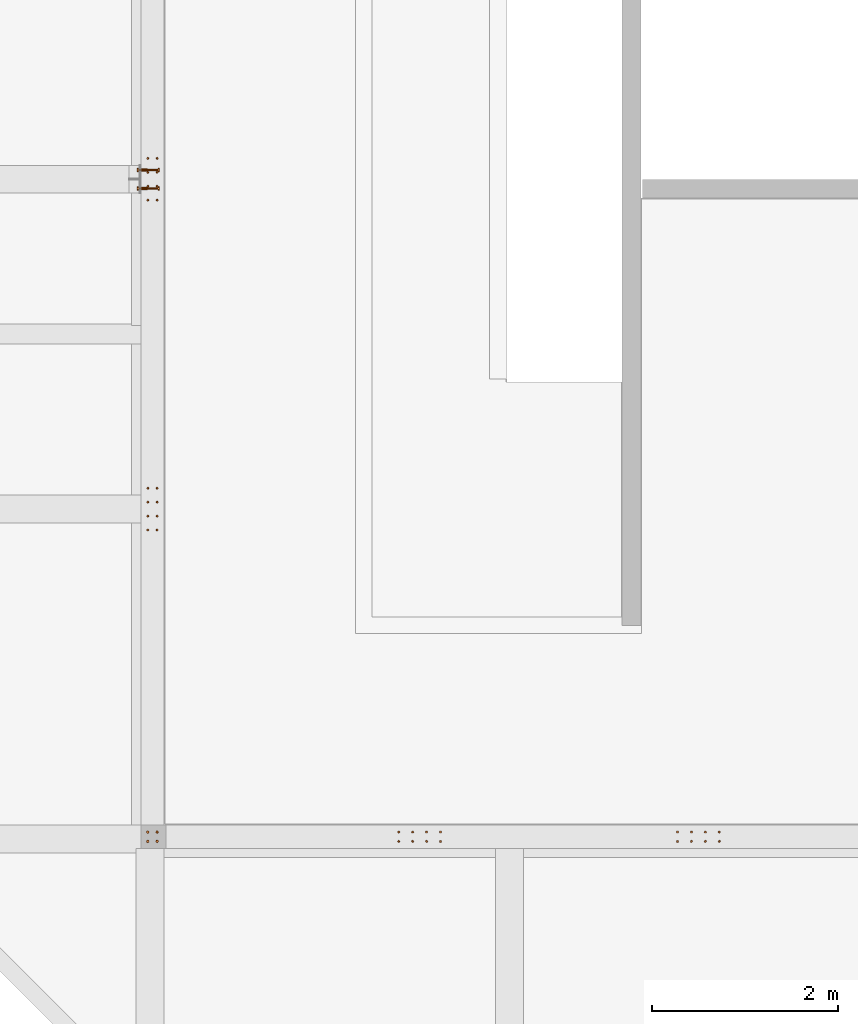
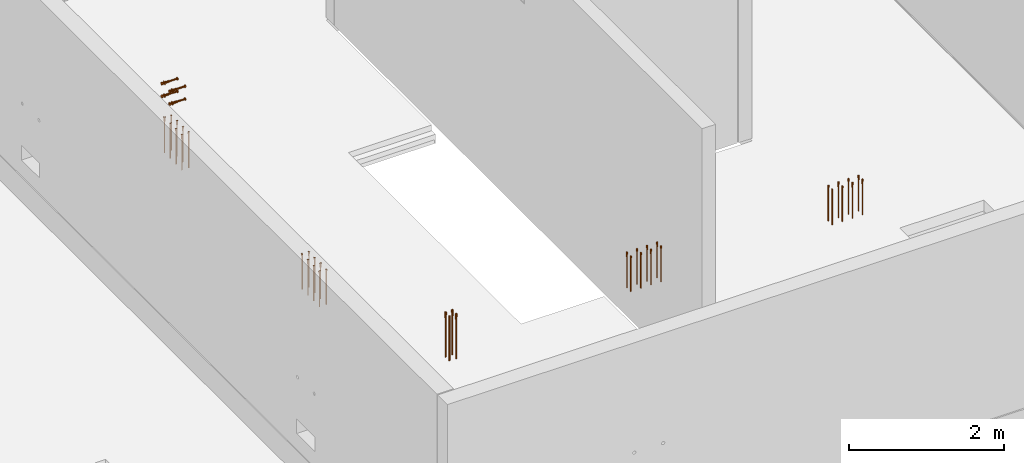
# One storey, part 13 of 16: 40 proxies.
"""IFC2X3 building model written with IfcOpenShell, lengths in millimetres."""

from ifc_helpers import new_model, entity, si_unit, converted_unit, derived_unit, direction, frame, frame_2d, origin, place, context, subcontext, project, spatial, polyline, circle, outline, extrude, faceted_brep, source, transform, mapped, material, type_object, type_shapes, element, save


model = new_model("IFC2X3")

# Units and contexts
model_context = context("Model", 3, precision=0.01, world=origin(), true_north=direction((6.12303176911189e-17, 1.0)))
body_context = subcontext(model_context, "Body", "Model", "MODEL_VIEW")
ifc_project = project(units=[si_unit("LENGTHUNIT", "METRE", prefix="MILLI"), si_unit("AREAUNIT", "SQUARE_METRE"), si_unit("VOLUMEUNIT", "CUBIC_METRE"), converted_unit("PLANEANGLEUNIT", "DEGREE", entity("IfcRatioMeasure", 0.0174532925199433), si_unit("PLANEANGLEUNIT", "RADIAN"), dimensions=[0, 0, 0, 0, 0, 0, 0]), si_unit("MASSUNIT", "GRAM", prefix="KILO"), derived_unit("MASSDENSITYUNIT", [(si_unit("MASSUNIT", "GRAM", prefix="KILO"), 1), (si_unit("LENGTHUNIT", "METRE"), -3)]), si_unit("TIMEUNIT", "SECOND"), si_unit("FREQUENCYUNIT", "HERTZ"), si_unit("THERMODYNAMICTEMPERATUREUNIT", "DEGREE_CELSIUS"), derived_unit("THERMALTRANSMITTANCEUNIT", [(si_unit("MASSUNIT", "GRAM", prefix="KILO"), 1), (si_unit("THERMODYNAMICTEMPERATUREUNIT", "KELVIN"), -1), (si_unit("TIMEUNIT", "SECOND"), -3)]), derived_unit("VOLUMETRICFLOWRATEUNIT", [(si_unit("LENGTHUNIT", "METRE"), 3), (si_unit("TIMEUNIT", "SECOND"), -1)]), si_unit("ELECTRICCURRENTUNIT", "AMPERE"), si_unit("ELECTRICVOLTAGEUNIT", "VOLT"), si_unit("POWERUNIT", "WATT"), si_unit("FORCEUNIT", "NEWTON", prefix="KILO"), si_unit("ILLUMINANCEUNIT", "LUX"), si_unit("LUMINOUSFLUXUNIT", "LUMEN"), si_unit("LUMINOUSINTENSITYUNIT", "CANDELA"), derived_unit("USERDEFINED", [(si_unit("MASSUNIT", "GRAM", prefix="KILO"), -1), (si_unit("LENGTHUNIT", "METRE"), -2), (si_unit("TIMEUNIT", "SECOND"), 3), (si_unit("LUMINOUSFLUXUNIT", "LUMEN"), 1)]), derived_unit("LINEARVELOCITYUNIT", [(si_unit("LENGTHUNIT", "METRE"), 1), (si_unit("TIMEUNIT", "SECOND"), -1)]), si_unit("PRESSUREUNIT", "PASCAL"), derived_unit("USERDEFINED", [(si_unit("LENGTHUNIT", "METRE"), -2), (si_unit("MASSUNIT", "GRAM", prefix="KILO"), 1), (si_unit("TIMEUNIT", "SECOND"), -2)])], contexts=[model_context])

# Site, building, storey
site_placement = place(None, origin())
site = spatial("IfcSite", under=ifc_project, at=site_placement, Name="Default", CompositionType="ELEMENT")
building_placement = place(site_placement, origin())
building = spatial("IfcBuilding", under=site, at=building_placement, Name="niet gebruiken", CompositionType="ELEMENT")
storey_placement = place(building_placement, frame((0.0, 0.0, 183150.0)))
storey = spatial("IfcBuildingStorey", under=building, at=storey_placement, Name="58 achtenvijftigste verdieping", CompositionType="ELEMENT", Elevation=183150.0)

# Proxies
building_element_proxy_type_1 = type_object("IfcBuildingElementProxyType", Name="Ø16/M20x560", PredefinedType="NOTDEFINED")
shared_shape_1 = source(origin(), body_context, "Body", "SolidModel", [
    extrude(circle(Radius=8.0, at=frame_2d((4.22994972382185e-15, -1.29243565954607e-14), x_axis=(1.0, 0.0))), frame((34.9769027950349, 0.0, -560.0)), (0.0, 0.0, 1.0), 489.0),
    extrude(circle(Radius=8.0, at=frame_2d((4.22994972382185e-15, -1.29243565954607e-14), x_axis=(1.0, 0.0))), frame((34.9769027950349, 0.0, -560.0)), (0.0, 0.0, 1.0), 489.0),
    faceted_brep([(30.380708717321, 11.0961940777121, 0.0), (32.6788057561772, 12.0480970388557, 0.0), (34.9769027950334, 13.0, 0.0), (34.9769027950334, 13.0, -33.0), (32.6788057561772, 12.0480970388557, -33.0), (30.380708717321, 11.0961940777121, -33.0), (28.0826116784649, 10.1442911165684, -33.0), (25.7845146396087, 9.1923881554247, -33.0), (25.7845146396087, 9.1923881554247, 0.0), (28.0826116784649, 10.1442911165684, 0.0), (47.0249998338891, 2.29809703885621, 0.0), (47.9769027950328, 0.0, 0.0), (47.9769027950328, 0.0, -33.0), (47.1698993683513, 1.94827861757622, -33.0), (46.0730968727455, 4.59619407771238, -33.0), (45.1211939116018, 6.89429111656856, -33.0), (44.1692909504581, 9.19238815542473, -33.0), (44.1692909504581, 9.19238815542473, 0.0), (45.1211939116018, 6.89429111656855, 0.0), (46.0730968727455, 4.59619407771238, 0.0), (23.5909096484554, 3.89655723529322, -33.0), (21.976902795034, 0.0, -33.0), (21.976902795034, 0.0, 0.0), (22.9288057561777, 2.29809703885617, 0.0), (23.8807087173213, 4.59619407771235, 0.0), (24.832611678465, 6.89429111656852, 0.0), (24.6877121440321, 6.54447269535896, -33.0), (39.5730968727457, 11.0961940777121, 0.0), (41.8711939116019, 10.1442911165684, 0.0), (41.8711939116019, 10.1442911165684, -33.0), (39.5730968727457, 11.0961940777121, -33.0), (37.2749998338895, 12.0480970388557, -33.0), (37.2749998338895, 12.0480970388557, 0.0), (46.3628959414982, -3.89655723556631, 0.0), (45.2660934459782, -6.54447269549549, 0.0), (44.1692909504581, -9.19238815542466, 0.0), (44.1692909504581, -9.19238815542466, -33.0), (45.1211939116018, -6.89429111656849, -33.0), (46.0730968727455, -4.59619407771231, -33.0), (47.0249998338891, -2.29809703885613, -33.0), (30.3807087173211, -11.0961940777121, 0.0), (28.0826116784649, -10.1442911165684, 0.0), (25.7845146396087, -9.19238815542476, 0.0), (25.7845146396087, -9.19238815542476, -33.0), (28.0826116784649, -10.1442911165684, -33.0), (30.3807087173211, -11.0961940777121, -33.0), (32.6788057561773, -12.0480970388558, -33.0), (34.9769027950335, -13.0, -33.0), (34.9769027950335, -13.0, 0.0), (32.6788057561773, -12.0480970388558, 0.0), (37.2749998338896, -12.0480970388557, -33.0), (39.5730968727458, -11.096194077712, -33.0), (41.871193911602, -10.1442911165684, -33.0), (41.871193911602, -10.1442911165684, 0.0), (39.5730968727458, -11.096194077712, 0.0), (37.2749998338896, -12.0480970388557, 0.0), (24.832611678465, -6.89429111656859, 0.0), (23.8807087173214, -4.59619407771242, 0.0), (22.9288057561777, -2.29809703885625, 0.0), (22.7839062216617, -1.94827861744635, -33.0), (23.8807087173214, -4.59619407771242, -33.0), (24.832611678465, -6.89429111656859, -33.0), (24.476902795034, 0.0, -38.0), (29.7269027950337, 9.09326673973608, -38.0), (40.2269027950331, 9.0932667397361, -38.0), (45.4769027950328, 0.0, -38.0), (40.2269027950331, -9.09326673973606, -38.0), (29.7269027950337, -9.09326673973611, -38.0), (29.7269027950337, 9.09326673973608, -71.0), (24.476902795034, 0.0, -71.0), (40.2269027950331, 9.0932667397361, -71.0), (45.4769027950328, 0.0, -71.0), (40.2269027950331, -9.09326673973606, -71.0), (29.7269027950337, -9.09326673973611, -71.0), (34.9769027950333, 0.0, -71.0), (34.9769027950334, 0.0, -33.0), (45.4769027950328, 0.0, -33.0), (40.2269027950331, 9.0932667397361, -33.0), (29.7269027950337, 9.09326673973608, -33.0), (24.476902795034, 0.0, -33.0), (40.2269027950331, -9.09326673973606, -33.0), (29.7269027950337, -9.09326673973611, -33.0), (29.7269027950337, 9.09326673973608, 0.0), (24.476902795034, 0.0, 0.0), (40.2269027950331, 9.0932667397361, 0.0), (45.4769027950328, 0.0, 0.0), (40.2269027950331, -9.09326673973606, 0.0), (29.7269027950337, -9.09326673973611, 0.0)], [[[0, 1, 2, 3, 4, 5, 6, 7, 8, 9]], [[10, 11, 12, 13, 14, 15, 16, 17, 18, 19]], [[20, 21, 22, 23, 24, 25, 8, 7, 26]], [[27, 28, 17, 16, 29, 30, 31, 3, 2, 32]], [[33, 34, 35, 36, 37, 38, 39, 12, 11]], [[40, 41, 42, 43, 44, 45, 46, 47, 48, 49]], [[48, 47, 50, 51, 52, 36, 35, 53, 54, 55]], [[43, 42, 56, 57, 58, 22, 21, 59, 60, 61]], [[62, 21, 20, 26, 7]], [[63, 62, 7]], [[63, 7, 6, 5, 4, 3]], [[64, 3, 31, 30, 29, 16]], [[16, 65, 64]], [[65, 16, 15, 14, 13, 12]], [[3, 64, 63]], [[65, 12, 39, 38, 37, 36]], [[66, 65, 36]], [[66, 36, 52, 51, 50, 47]], [[67, 47, 46, 45, 44, 43]], [[43, 62, 67]], [[62, 43, 61, 60, 59, 21]], [[47, 67, 66]], [[62, 63, 68, 69]], [[63, 64, 70, 68]], [[64, 65, 71, 70]], [[65, 66, 72, 71]], [[66, 67, 73, 72]], [[67, 62, 69, 73]], [[70, 71, 74]], [[74, 68, 70]], [[71, 72, 74]], [[73, 74, 72]], [[74, 73, 69]], [[74, 69, 68]], [[75, 76, 77]], [[77, 78, 75]], [[78, 79, 75]], [[75, 80, 76]], [[79, 81, 75]], [[80, 75, 81]], [[78, 82, 83, 79]], [[78, 77, 84, 82]], [[76, 85, 84, 77]], [[80, 86, 85, 76]], [[80, 81, 87, 86]], [[79, 83, 87, 81]], [[85, 11, 10]], [[85, 10, 19]], [[85, 19, 18]], [[85, 18, 17]], [[85, 17, 84]], [[85, 33, 11]], [[85, 34, 33]], [[85, 35, 34]], [[85, 86, 35]], [[86, 53, 35]], [[86, 54, 53]], [[86, 55, 54]], [[86, 48, 55]], [[48, 86, 87]], [[87, 49, 48]], [[87, 40, 49]], [[87, 41, 40]], [[87, 42, 41]], [[87, 83, 42]], [[83, 56, 42]], [[83, 57, 56]], [[83, 58, 57]], [[83, 22, 58]], [[83, 23, 22]], [[83, 24, 23]], [[83, 25, 24]], [[83, 8, 25]], [[83, 82, 8]], [[82, 84, 2]], [[82, 2, 1]], [[82, 1, 0]], [[82, 0, 9]], [[82, 9, 8]], [[84, 17, 28]], [[84, 28, 27]], [[84, 27, 32]], [[84, 32, 2]]]),
])
type_shapes(building_element_proxy_type_1, [shared_shape_1])
for number, where in (
    (1, (138640.023097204, 10475.0, 4420.0)),
    (2, (138790.023097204, 10475.0, 4420.0)),
    (3, (138640.023097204, 10375.0, 4420.0)),
    (4, (138790.023097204, 10375.0, 4420.0)),
    (5, (141640.023097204, 10475.0, 4420.0)),
    (6, (141790.023097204, 10475.0, 4420.0)),
    (7, (141640.023097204, 10375.0, 4420.0)),
    (8, (141790.023097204, 10375.0, 4420.0)),
):
    element("IfcBuildingElementProxy", number, at=place(storey_placement, frame(where)), inside=storey, type_object=building_element_proxy_type_1, Name="GM_Stekanker_DEMU_4010 GV:Ø16/M20x560", ObjectType="Ø16/M20x560", context=body_context, shape_type="MappedRepresentation", body=[
        mapped(shared_shape_1, transform((0.0, 0.0, 0.0), scale=1.0)),
    ])
for number, where, z_axis, x_axis in (
    (9, (135825.0, 13840.0230972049, 3095.0), (0.0, 0.0, 1.0), (0.0, 1.0, 0.0)),
    (10, (135825.0, 13990.0230972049, 3095.0), (0.0, 0.0, 1.0), (0.0, 1.0, 0.0)),
    (11, (135925.0, 13840.0230972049, 3095.0), (0.0, 0.0, 1.0), (0.0, 1.0, 0.0)),
    (12, (135925.0, 13990.0230972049, 3095.0), (0.0, 0.0, 1.0), (0.0, 1.0, 0.0)),
    (13, (135825.0, 17390.0230972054, 3095.0), (0.0, 0.0, 1.0), (0.0, 1.0, 0.0)),
    (14, (135825.0, 17540.0230972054, 3095.0), (0.0, 0.0, 1.0), (0.0, 1.0, 0.0)),
    (15, (135925.0, 17390.0230972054, 3095.0), (0.0, 0.0, 1.0), (0.0, 1.0, 0.0)),
    (16, (135925.0, 17540.0230972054, 3095.0), (0.0, 0.0, 1.0), (0.0, 1.0, 0.0)),
):
    element("IfcBuildingElementProxy", number, at=place(storey_placement, frame(where, z_axis=z_axis, x_axis=x_axis)), inside=storey, type_object=building_element_proxy_type_1, Name="GM_Stekanker_DEMU_4010 GV:Ø16/M20x560", ObjectType="Ø16/M20x560", context=body_context, shape_type="MappedRepresentation", body=[
        mapped(shared_shape_1, transform((0.0, 0.0, 0.0), scale=1.0)),
    ])
for number, where in (
    (17, (138940.023097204, 10475.0, 4420.0)),
    (18, (138940.023097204, 10375.0, 4420.0)),
    (19, (138490.023097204, 10475.0, 4420.0)),
    (20, (138490.023097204, 10375.0, 4420.0)),
    (21, (141940.023097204, 10475.0, 4420.0)),
    (22, (141940.023097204, 10375.0, 4420.0)),
    (23, (141490.023097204, 10475.0, 4420.0)),
    (24, (141490.023097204, 10375.0, 4420.0)),
):
    element("IfcBuildingElementProxy", number, at=place(storey_placement, frame(where)), inside=storey, type_object=building_element_proxy_type_1, Name="GM_Stekanker_DEMU_4010 GV:Ø16/M20x560", ObjectType="Ø16/M20x560", context=body_context, shape_type="MappedRepresentation", body=[
        mapped(shared_shape_1, transform((0.0, 0.0, 0.0), scale=1.0)),
    ])
for number, where, z_axis, x_axis in (
    (25, (135825.0, 14140.0230972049, 3095.0), (0.0, 0.0, 1.0), (0.0, 1.0, 0.0)),
    (26, (135925.0, 14140.0230972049, 3095.0), (0.0, 0.0, 1.0), (0.0, 1.0, 0.0)),
    (27, (135825.0, 13690.0230972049, 3095.0), (0.0, 0.0, 1.0), (0.0, 1.0, 0.0)),
    (28, (135925.0, 13690.0230972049, 3095.0), (0.0, 0.0, 1.0), (0.0, 1.0, 0.0)),
    (29, (135825.0, 17690.0230972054, 3095.0), (0.0, 0.0, 1.0), (0.0, 1.0, 0.0)),
    (30, (135925.0, 17690.0230972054, 3095.0), (0.0, 0.0, 1.0), (0.0, 1.0, 0.0)),
    (31, (135825.0, 17240.0230972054, 3095.0), (0.0, 0.0, 1.0), (0.0, 1.0, 0.0)),
    (32, (135925.0, 17240.0230972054, 3095.0), (0.0, 0.0, 1.0), (0.0, 1.0, 0.0)),
):
    element("IfcBuildingElementProxy", number, at=place(storey_placement, frame(where, z_axis=z_axis, x_axis=x_axis)), inside=storey, type_object=building_element_proxy_type_1, Name="GM_Stekanker_DEMU_4010 GV:Ø16/M20x560", ObjectType="Ø16/M20x560", context=body_context, shape_type="MappedRepresentation", body=[
        mapped(shared_shape_1, transform((0.0, 0.0, 0.0), scale=1.0)),
    ])
building_element_proxy_type_2 = type_object("IfcBuildingElementProxyType", Name="Ø20/M24x705", PredefinedType="NOTDEFINED")
shared_shape_2 = source(origin(), body_context, "Body", "SolidModel", [
    extrude(circle(Radius=10.0, at=frame_2d((0.0, -1.61554457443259e-14), x_axis=(1.0, 0.0))), frame((34.9769027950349, 0.0, -705.0)), (0.0, 0.0, 1.0), 615.0),
    extrude(circle(Radius=10.0, at=frame_2d((0.0, -1.61554457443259e-14), x_axis=(1.0, 0.0))), frame((34.9769027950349, 0.0, -705.0)), (0.0, 0.0, 1.0), 615.0),
    faceted_brep([(29.3200485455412, 13.6568542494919, 0.0), (32.1484756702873, 14.8284271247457, 0.0), (34.9769027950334, 16.0, 0.0), (34.9769027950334, 16.0, -38.0), (32.1484756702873, 14.8284271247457, -38.0), (29.3200485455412, 13.6568542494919, -38.0), (26.4916214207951, 12.4852813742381, -38.0), (23.663194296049, 11.3137084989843, -38.0), (23.663194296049, 11.3137084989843, 0.0), (26.4916214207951, 12.4852813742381, 0.0), (49.805329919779, 2.82842712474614, 0.0), (50.9769027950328, 0.0, 0.0), (50.9769027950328, 0.0, -38.0), (50.0199937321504, 2.31018283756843, -38.0), (49.7680552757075, 2.91841607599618, -38.0), (48.6337570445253, 5.65685424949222, -38.0), (48.5592077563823, 5.83683215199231, -38.0), (47.4621841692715, 8.48528137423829, -38.0), (46.2906112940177, 11.3137084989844, -38.0), (46.2906112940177, 11.3137084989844, 0.0), (47.4621841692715, 8.48528137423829, 0.0), (48.6337570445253, 5.65685424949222, 0.0), (21.3200485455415, 5.65685424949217, 0.0), (22.4916214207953, 8.48528137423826, 0.0), (22.4916214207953, 8.48528137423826, -38.0), (22.2769576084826, 7.96703708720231, -38.0), (21.3200485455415, 5.65685424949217, -38.0), (20.8907209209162, 4.62036567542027, -38.0), (20.1484756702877, 2.82842712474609, -38.0), (18.976902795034, 0.0, -38.0), (18.976902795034, 0.0, 0.0), (20.1484756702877, 2.82842712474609, 0.0), (40.6337570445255, 13.6568542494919, 0.0), (43.4621841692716, 12.4852813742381, 0.0), (43.4621841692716, 12.4852813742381, -38.0), (40.6337570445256, 13.6568542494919, -38.0), (37.8053299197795, 14.8284271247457, -38.0), (37.8053299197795, 14.8284271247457, 0.0), (49.063084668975, -4.62036567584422, 0.0), (47.6768479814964, -7.96703708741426, 0.0), (46.2906112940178, -11.3137084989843, 0.0), (46.2906112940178, -11.3137084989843, -38.0), (47.4621841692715, -8.48528137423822, -38.0), (48.6337570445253, -5.65685424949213, -38.0), (49.8053299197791, -2.82842712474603, -38.0), (29.3200485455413, -13.6568542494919, 0.0), (26.4916214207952, -12.4852813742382, 0.0), (23.6631942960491, -11.3137084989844, 0.0), (23.6631942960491, -11.3137084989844, -38.0), (26.4916214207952, -12.4852813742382, -38.0), (29.3200485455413, -13.6568542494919, -38.0), (32.1484756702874, -14.8284271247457, -38.0), (34.9769027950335, -16.0, -38.0), (34.9769027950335, -16.0, 0.0), (32.1484756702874, -14.8284271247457, 0.0), (37.8053299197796, -14.8284271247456, -38.0), (40.6337570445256, -13.6568542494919, -38.0), (43.4621841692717, -12.4852813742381, -38.0), (43.4621841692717, -12.4852813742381, 0.0), (40.6337570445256, -13.6568542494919, 0.0), (37.8053299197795, -14.8284271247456, 0.0), (22.4916214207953, -8.48528137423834, 0.0), (21.3200485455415, -5.65685424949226, 0.0), (20.1484756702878, -2.82842712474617, 0.0), (19.9338118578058, -2.31018283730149, -38.0), (20.1857498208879, -2.91841488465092, -38.0), (21.3200485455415, -5.65685424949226, -38.0), (22.4916214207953, -8.48528137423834, -38.0), (25.7845146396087, 9.19238815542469, -52.0), (24.8628969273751, 6.96740617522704, -52.0), (23.9412792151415, 4.7424241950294, -52.0), (22.9590910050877, 2.3712120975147, -52.0), (21.976902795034, 0.0, -52.0), (44.1692909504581, 9.19238815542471, -52.0), (47.9769027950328, 0.0, -52.0), (46.994714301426, 2.37121278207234, -52.0), (46.0730968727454, 4.59619407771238, -52.0), (45.1211939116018, 6.89429111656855, -52.0), (34.9769027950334, 13.0, -52.0), (32.6788057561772, 12.0480970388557, -52.0), (30.380708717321, 11.096194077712, -52.0), (28.0826116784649, 10.1442911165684, -52.0), (37.2749998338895, 12.0480970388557, -52.0), (41.8711939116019, 10.1442911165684, -52.0), (39.5730968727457, 11.0961940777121, -52.0), (44.1692909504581, -9.19238815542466, -52.0), (45.0909086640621, -6.96740617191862, -52.0), (45.3722781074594, -6.28812024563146, -52.0), (46.0125263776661, -4.74242418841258, -52.0), (46.5752652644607, -3.38385233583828, -52.0), (46.9947145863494, -2.37121209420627, -52.0), (28.0826116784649, -10.1442911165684, -52.0), (30.3807087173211, -11.0961940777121, -52.0), (32.6788057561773, -12.0480970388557, -52.0), (34.9769027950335, -13.0, -52.0), (25.7845146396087, -9.19238815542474, -52.0), (37.2749998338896, -12.0480970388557, -52.0), (39.5730968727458, -11.096194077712, -52.0), (41.871193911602, -10.1442911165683, -52.0), (22.9288057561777, -2.29809703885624, -52.0), (23.8807087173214, -4.59619407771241, -52.0), (24.8326116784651, -6.89429111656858, -52.0), (32.6788057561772, 12.0480970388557, -90.0), (30.380708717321, 11.096194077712, -90.0), (28.0826116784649, 10.1442911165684, -90.0), (25.7845146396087, 9.19238815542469, -90.0), (34.9769027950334, 13.0, -90.0), (47.9769027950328, 0.0, -90.0), (47.2760840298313, 1.691926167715, -90.0), (46.0730968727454, 4.59619407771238, -90.0), (45.1211939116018, 6.89429111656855, -90.0), (44.1692909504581, 9.19238815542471, -90.0), (23.3785403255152, 3.38385233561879, -90.0), (21.976902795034, 0.0, -90.0), (24.5815274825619, 6.28812024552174, -90.0), (41.8711939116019, 10.1442911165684, -90.0), (39.5730968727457, 11.0961940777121, -90.0), (37.2749998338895, 12.0480970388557, -90.0), (46.0730968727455, -4.5961940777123, -90.0), (47.0249998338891, -2.29809703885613, -90.0), (44.1692909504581, -9.19238815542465, -90.0), (45.1211939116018, -6.89429111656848, -90.0), (25.7845146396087, -9.19238815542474, -90.0), (28.0826116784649, -10.1442911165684, -90.0), (30.3807087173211, -11.0961940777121, -90.0), (32.6788057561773, -12.0480970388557, -90.0), (34.9769027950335, -13.0, -90.0), (37.2749998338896, -12.0480970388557, -90.0), (39.5730968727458, -11.096194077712, -90.0), (41.871193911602, -10.1442911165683, -90.0), (22.6777215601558, -1.6919261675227, -90.0), (23.8807087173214, -4.59619407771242, -90.0), (24.8326116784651, -6.89429111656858, -90.0), (34.9769027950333, 0.0, -90.0), (34.9769027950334, 0.0, -38.0), (47.9769027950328, 0.0, -38.0), (47.2760840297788, 1.69192616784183, -38.0), (46.0730968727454, 4.59619407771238, -38.0), (45.1211939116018, 6.89429111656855, -38.0), (44.1692909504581, 9.19238815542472, -38.0), (41.8711939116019, 10.1442911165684, -38.0), (39.5730968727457, 11.0961940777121, -38.0), (37.2749998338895, 12.0480970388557, -38.0), (34.9769027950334, 13.0, -38.0), (32.6788057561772, 12.0480970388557, -38.0), (30.380708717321, 11.096194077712, -38.0), (28.0826116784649, 10.1442911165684, -38.0), (25.7845146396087, 9.19238815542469, -38.0), (24.5815274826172, 6.28812024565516, -38.0), (23.3785403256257, 3.38385233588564, -38.0), (21.976902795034, 0.0, -38.0), (22.6777215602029, -1.69192616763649, -38.0), (47.0249998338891, -2.29809703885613, -38.0), (46.0730968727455, -4.59619407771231, -38.0), (45.1211939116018, -6.89429111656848, -38.0), (44.1692909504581, -9.19238815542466, -38.0), (41.871193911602, -10.1442911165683, -38.0), (39.5730968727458, -11.096194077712, -38.0), (37.2749998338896, -12.0480970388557, -38.0), (34.9769027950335, -13.0, -38.0), (23.8807087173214, -4.59619407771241, -38.0), (24.8326116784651, -6.89429111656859, -38.0), (25.7845146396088, -9.19238815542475, -38.0), (28.0826116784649, -10.1442911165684, -38.0), (30.3807087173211, -11.0961940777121, -38.0), (32.6788057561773, -12.0480970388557, -38.0), (32.6788057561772, 12.0480970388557, 0.0), (30.380708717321, 11.096194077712, 0.0), (28.0826116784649, 10.1442911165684, 0.0), (25.7845146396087, 9.19238815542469, 0.0), (34.9769027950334, 13.0, 0.0), (47.9769027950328, 0.0, 0.0), (47.0249998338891, 2.29809703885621, 0.0), (46.0730968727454, 4.59619407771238, 0.0), (45.1211939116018, 6.89429111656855, 0.0), (44.1692909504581, 9.19238815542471, 0.0), (24.832611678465, 6.89429111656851, 0.0), (23.8807087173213, 4.59619407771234, 0.0), (22.9288057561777, 2.29809703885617, 0.0), (21.976902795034, 0.0, 0.0), (37.2749998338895, 12.0480970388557, 0.0), (41.8711939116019, 10.1442911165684, 0.0), (39.5730968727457, 11.0961940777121, 0.0), (44.1692909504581, -9.19238815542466, 0.0), (45.3722781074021, -6.28812024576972, 0.0), (46.5752652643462, -3.38385233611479, 0.0), (32.6788057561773, -12.0480970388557, 0.0), (34.9769027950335, -13.0, 0.0), (25.7845146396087, -9.19238815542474, 0.0), (28.0826116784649, -10.1442911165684, 0.0), (30.3807087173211, -11.0961940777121, 0.0), (37.2749998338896, -12.0480970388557, 0.0), (39.5730968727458, -11.096194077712, 0.0), (41.871193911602, -10.1442911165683, 0.0), (22.9288057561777, -2.29809703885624, 0.0), (23.8807087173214, -4.59619407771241, 0.0), (24.8326116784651, -6.89429111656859, 0.0)], [[[0, 1, 2, 3, 4, 5, 6, 7, 8, 9]], [[10, 11, 12, 13, 14, 15, 16, 17, 18, 19, 20, 21]], [[22, 23, 8, 7, 24, 25, 26, 27, 28, 29, 30, 31]], [[32, 33, 19, 18, 34, 35, 36, 3, 2, 37]], [[38, 39, 40, 41, 42, 43, 44, 12, 11]], [[45, 46, 47, 48, 49, 50, 51, 52, 53, 54]], [[53, 52, 55, 56, 57, 41, 40, 58, 59, 60]], [[48, 47, 61, 62, 63, 30, 29, 64, 65, 66, 67]], [[7, 68, 69, 70, 71, 72, 29, 28, 27, 26, 25, 24]], [[73, 18, 17, 16, 15, 14, 13, 12, 74, 75, 76, 77]], [[4, 3, 78, 79, 80, 81, 68, 7, 6, 5]], [[82, 78, 3, 36, 35, 34, 18, 73, 83, 84]], [[41, 85, 86, 87, 88, 89, 90, 74, 12, 44, 43, 42]], [[91, 92, 93, 94, 52, 51, 50, 49, 48, 95]], [[55, 52, 94, 96, 97, 98, 85, 41, 57, 56]], [[99, 100, 101, 95, 48, 67, 66, 65, 64, 29, 72]], [[102, 103, 104, 105, 68, 81, 80, 79, 78, 106]], [[75, 74, 107, 108, 109, 110, 111, 73, 77, 76]], [[112, 113, 72, 71, 70, 69, 68, 105, 114]], [[84, 83, 73, 111, 115, 116, 117, 106, 78, 82]], [[118, 119, 107, 74, 90, 89, 88, 87, 86, 85, 120, 121]], [[92, 91, 95, 122, 123, 124, 125, 126, 94, 93]], [[94, 126, 127, 128, 129, 120, 85, 98, 97, 96]], [[122, 95, 101, 100, 99, 72, 113, 130, 131, 132]], [[133, 111, 110]], [[133, 110, 109]], [[133, 109, 108]], [[133, 108, 107]], [[133, 107, 119]], [[133, 115, 111]], [[133, 116, 115]], [[133, 117, 116]], [[133, 106, 117]], [[133, 102, 106]], [[133, 103, 102]], [[133, 104, 103]], [[133, 105, 104]], [[133, 114, 105]], [[133, 112, 114]], [[133, 113, 112]], [[133, 119, 118]], [[133, 118, 121]], [[133, 121, 120]], [[133, 120, 129]], [[133, 129, 128]], [[133, 128, 127]], [[133, 127, 126]], [[133, 126, 125]], [[133, 130, 113]], [[133, 131, 130]], [[133, 132, 131]], [[133, 122, 132]], [[133, 125, 124]], [[133, 124, 123]], [[133, 123, 122]], [[134, 135, 136]], [[134, 136, 137]], [[134, 137, 138]], [[134, 138, 139]], [[134, 139, 140]], [[134, 140, 141]], [[134, 141, 142]], [[134, 142, 143]], [[134, 143, 144]], [[134, 144, 145]], [[134, 145, 146]], [[134, 146, 147]], [[134, 147, 148]], [[134, 148, 149]], [[134, 149, 150]], [[134, 150, 151]], [[134, 152, 135]], [[134, 153, 152]], [[134, 154, 153]], [[134, 155, 154]], [[134, 156, 155]], [[134, 157, 156]], [[134, 158, 157]], [[134, 159, 158]], [[134, 151, 160]], [[134, 160, 161]], [[134, 161, 162]], [[134, 162, 163]], [[134, 163, 164]], [[134, 164, 165]], [[134, 165, 159]], [[166, 167, 168, 169, 147, 146, 145, 144, 143, 170]], [[136, 135, 171, 172, 173, 174, 175, 139, 138, 137]], [[148, 147, 169, 176, 177, 178, 179, 150, 149]], [[180, 170, 143, 142, 141, 140, 139, 175, 181, 182]], [[153, 154, 155, 183, 184, 185, 171, 135, 152]], [[186, 187, 159, 165, 164, 163, 162, 188, 189, 190]], [[158, 159, 187, 191, 192, 193, 183, 155, 156, 157]], [[161, 160, 151, 150, 179, 194, 195, 196, 188, 162]], [[171, 11, 10]], [[171, 10, 21]], [[171, 21, 20]], [[171, 20, 19]], [[19, 172, 171]], [[171, 38, 11]], [[171, 39, 38]], [[171, 40, 39]], [[40, 171, 185]], [[40, 185, 184]], [[40, 184, 183]], [[183, 58, 40]], [[183, 59, 58]], [[183, 60, 59]], [[183, 53, 60]], [[53, 183, 193]], [[53, 193, 192]], [[53, 192, 191]], [[53, 191, 187]], [[53, 187, 186]], [[53, 186, 190]], [[53, 190, 189]], [[53, 189, 188]], [[188, 54, 53]], [[188, 45, 54]], [[188, 46, 45]], [[188, 47, 46]], [[47, 188, 196]], [[47, 196, 195]], [[47, 195, 194]], [[47, 194, 179]], [[179, 61, 47]], [[179, 62, 61]], [[179, 63, 62]], [[179, 30, 63]], [[179, 31, 30]], [[179, 22, 31]], [[179, 23, 22]], [[179, 8, 23]], [[8, 179, 178]], [[8, 178, 177]], [[8, 177, 176]], [[8, 176, 169]], [[169, 9, 8]], [[169, 0, 9]], [[169, 1, 0]], [[169, 2, 1]], [[2, 169, 168]], [[2, 168, 167]], [[2, 167, 166]], [[2, 166, 170]], [[2, 170, 180]], [[2, 180, 182]], [[2, 182, 181]], [[2, 181, 175]], [[175, 19, 33]], [[19, 175, 174]], [[175, 33, 32]], [[175, 32, 37]], [[175, 37, 2]], [[19, 174, 173]], [[19, 173, 172]]]),
])
type_shapes(building_element_proxy_type_2, [shared_shape_2])
for number, where, z_axis, x_axis in (
    (33, (135959.976902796, 10375.0, 4420.0), (0.0, 0.0, 1.0), (-1.0, 0.0, 0.0)),
    (34, (135859.976902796, 10375.0, 4420.0), (0.0, 0.0, 1.0), (-1.0, 0.0, 0.0)),
    (35, (135959.976902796, 10475.0, 4420.0), (0.0, 0.0, 1.0), (-1.0, 0.0, 0.0)),
    (36, (135859.976902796, 10475.0, 4420.0), (0.0, 0.0, 1.0), (-1.0, 0.0, 0.0)),
):
    element("IfcBuildingElementProxy", number, at=place(storey_placement, frame(where, z_axis=z_axis, x_axis=x_axis)), inside=storey, type_object=building_element_proxy_type_2, Name="GM_Stekanker_DEMU_4010 GV:Ø20/M24x705", ObjectType="Ø20/M24x705", context=body_context, shape_type="MappedRepresentation", body=[
        mapped(shared_shape_2, transform((0.0, 0.0, 0.0), scale=1.0)),
    ])
ifc_material = material(Name="NLRS_h2_staal")
building_element_proxy_type_3 = type_object("IfcBuildingElementProxyType", Name="M24x200", PredefinedType="NOTDEFINED", material=ifc_material)
shared_shape_3 = source(origin(), body_context, "Body", "SweptSolid", [
    extrude(circle(Radius=12.0, at=frame_2d((-3.69272717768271e-16, -5.40254932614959e-14), x_axis=(1.0, 0.0))), frame((0.0, -25.0, 0.0), z_axis=(0.0, 1.0, 0.0), x_axis=(1.0, 0.0, 0.0)), (0.0, 0.0, 1.0), 25.0),
    extrude(circle(Radius=22.0, at=frame_2d((1.74570214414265e-15, -9.90467376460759e-14), x_axis=(1.0, 0.0))), frame((0.0, -29.0, 0.0), z_axis=(0.0, 1.0, 0.0), x_axis=(1.0, 0.0, 0.0)), (0.0, 0.0, 1.0), 3.99999999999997),
    extrude(outline(polyline([(-10.4021724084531, -18.017091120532), (10.4021724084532, -18.017091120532), (20.8043448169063, 0.0), (10.4021724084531, 18.017091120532), (-10.4021724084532, 18.0170911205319), (-20.8043448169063, 0.0), (-10.4021724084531, -18.017091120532)])), frame((-0.029602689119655, -44.0, -0.0170911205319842), z_axis=(0.0, 1.0, 0.0), x_axis=(0.500000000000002, 0.0, 0.866025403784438)), (0.0, 0.0, 1.0), 15.0),
    extrude(outline(polyline([(-10.4021724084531, -18.017091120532), (10.4021724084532, -18.017091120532), (20.8043448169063, 0.0), (10.4021724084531, 18.017091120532), (-10.4021724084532, 18.0170911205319), (-20.8043448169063, 0.0), (-10.4021724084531, -18.017091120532)])), frame((-0.029602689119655, 185.0, -0.0170911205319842), z_axis=(0.0, 1.0, 0.0), x_axis=(0.500000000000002, 0.0, 0.866025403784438)), (0.0, 0.0, 1.0), 15.0),
    extrude(circle(Radius=12.0, at=frame_2d((-3.69272717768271e-16, -5.40254932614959e-14), x_axis=(1.0, 0.0))), frame((0.0, 70.0, 0.0), z_axis=(0.0, 1.0, 0.0), x_axis=(1.0, 0.0, 0.0)), (0.0, 0.0, 1.0), 115.0),
    extrude(circle(Radius=16.0, at=frame_2d((-3.69272717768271e-16, -7.20339910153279e-14), x_axis=(1.0, 0.0))), frame((0.0, 2.0, 0.0), z_axis=(0.0, 1.0, 0.0), x_axis=(1.0, 0.0, 0.0)), (0.0, 0.0, 1.0), 68.0),
    extrude(circle(Radius=28.5, at=frame_2d((1.74570214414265e-15, -1.28310546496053e-13), x_axis=(1.0, 0.0))), frame((0.0, 0.0, 0.0), z_axis=(0.0, 1.0, 0.0), x_axis=(1.0, 0.0, 0.0)), (0.0, 0.0, 1.0), 2.0),
])
type_shapes(building_element_proxy_type_3, [shared_shape_3])
for number, where, z_axis, x_axis, name in (
    (37, (135750.0, 17400.0, 3535.0), (0.0, 0.0, 1.0), (0.0, -1.0, 0.0), "NLRS_28.10_SF_WPB_DEMU 1985 boutanker_gen:M24x200"),
    (38, (135750.0, 17600.0, 3535.0), (0.0, 0.0, 1.0), (0.0, -1.0, 0.0), "NLRS_28.10_SF_WPB_DEMU 1985 boutanker_gen:M24x200"),
    (39, (135750.0, 17400.0, 3735.0), (0.0, 0.0, 1.0), (0.0, -1.0, 0.0), "NLRS_28.10_SF_WPB_DEMU 1985 boutanker_gen:M24x200"),
    (40, (135750.0, 17600.0, 3735.0), (0.0, 0.0, 1.0), (0.0, -1.0, 0.0), "NLRS_28.10_SF_WPB_DEMU 1985 boutanker_gen:M24x200"),
):
    element("IfcBuildingElementProxy", number, at=place(storey_placement, frame(where, z_axis=z_axis, x_axis=x_axis)), inside=storey, type_object=building_element_proxy_type_3, material=ifc_material, Name=name, ObjectType="M24x200", context=body_context, shape_type="MappedRepresentation", body=[
        mapped(shared_shape_3, transform((0.0, 0.0, 0.0), scale=1.0)),
    ])

save(model, "model.ifc")
